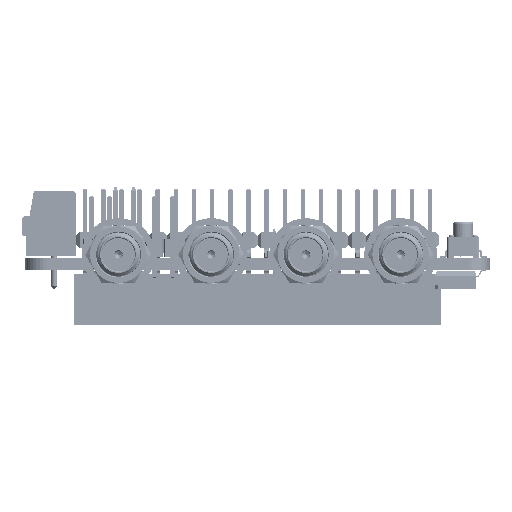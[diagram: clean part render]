
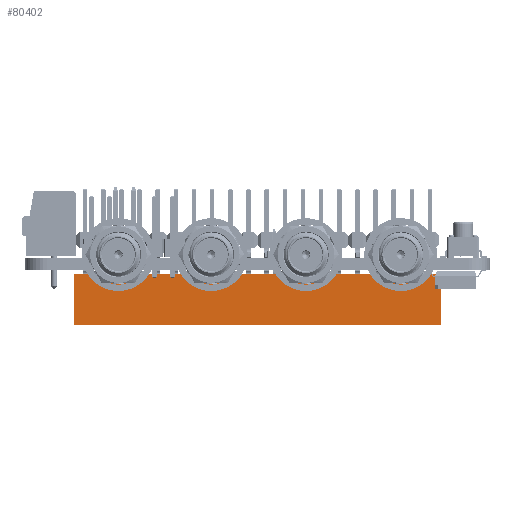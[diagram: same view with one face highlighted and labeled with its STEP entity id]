
A CAD part, front view. The second image highlights one B-rep face of the part: STEP entity #80402.
In plain terms, the highlighted planar face has unit normal (0, -1, 0) as drawn and (0, 0, -1) by its records, which use the part's own axes.
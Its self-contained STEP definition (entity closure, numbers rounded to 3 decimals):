
#80369 = VERTEX_POINT('',#80370);
#80370 = CARTESIAN_POINT('',(-25.654,0.635,-2.502));
#80376 = EDGE_CURVE('',#80377,#80369,#80379,.T.);
#80377 = VERTEX_POINT('',#80378);
#80378 = CARTESIAN_POINT('',(25.654,0.635,-2.502));
#80379 = LINE('',#80380,#80381);
#80380 = CARTESIAN_POINT('',(25.654,0.635,-2.502));
#80381 = VECTOR('',#80382,1.);
#80382 = DIRECTION('',(-1.,-0.,-0.));
#80402 = ADVANCED_FACE('',(#80403),#80428,.F.);
#80403 = FACE_BOUND('',#80404,.T.);
#80404 = EDGE_LOOP('',(#80405,#80413,#80421,#80427));
#80405 = ORIENTED_EDGE('',*,*,#80406,.T.);
#80406 = EDGE_CURVE('',#80369,#80407,#80409,.T.);
#80407 = VERTEX_POINT('',#80408);
#80408 = CARTESIAN_POINT('',(-25.654,7.747,-2.502));
#80409 = LINE('',#80410,#80411);
#80410 = CARTESIAN_POINT('',(-25.654,7.747,-2.502));
#80411 = VECTOR('',#80412,1.);
#80412 = DIRECTION('',(-0.,1.,0.));
#80413 = ORIENTED_EDGE('',*,*,#80414,.F.);
#80414 = EDGE_CURVE('',#80415,#80407,#80417,.T.);
#80415 = VERTEX_POINT('',#80416);
#80416 = CARTESIAN_POINT('',(25.654,7.747,-2.502));
#80417 = LINE('',#80418,#80419);
#80418 = CARTESIAN_POINT('',(25.654,7.747,-2.502));
#80419 = VECTOR('',#80420,1.);
#80420 = DIRECTION('',(-1.,0.,0.));
#80421 = ORIENTED_EDGE('',*,*,#80422,.F.);
#80422 = EDGE_CURVE('',#80377,#80415,#80423,.T.);
#80423 = LINE('',#80424,#80425);
#80424 = CARTESIAN_POINT('',(25.654,7.747,-2.502));
#80425 = VECTOR('',#80426,1.);
#80426 = DIRECTION('',(-0.,1.,0.));
#80427 = ORIENTED_EDGE('',*,*,#80376,.T.);
#80428 = PLANE('',#80429);
#80429 = AXIS2_PLACEMENT_3D('',#80430,#80431,#80432);
#80430 = CARTESIAN_POINT('',(25.654,7.747,-2.502));
#80431 = DIRECTION('',(0.,0.,1.));
#80432 = DIRECTION('',(0.,-1.,0.));
